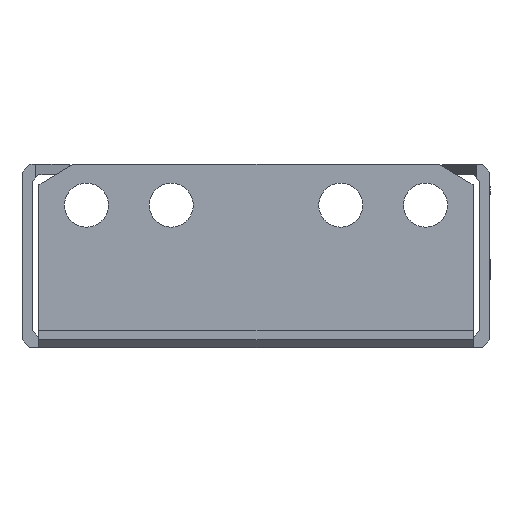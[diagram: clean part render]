
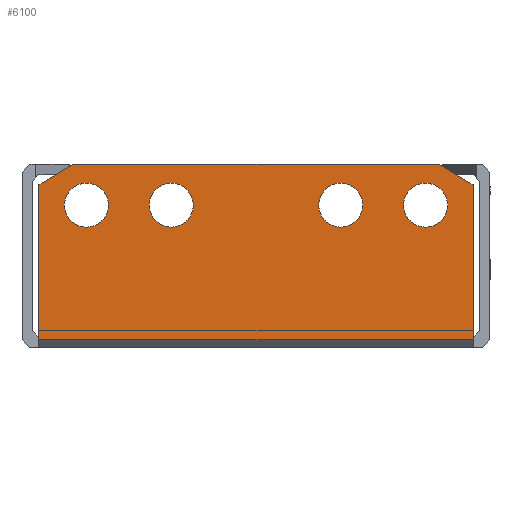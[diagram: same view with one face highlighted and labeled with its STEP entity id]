
A CAD part, left-side view. The second image highlights one B-rep face of the part: STEP entity #6100.
In plain terms, the highlighted planar face has unit normal (-1, 0, 0).
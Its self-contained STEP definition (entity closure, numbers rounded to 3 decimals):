
#338 = ORIENTED_EDGE ( 'NONE', *, *, #28881, .F. ) ;
#388 = DIRECTION ( 'NONE',  ( 0., 0., 1. ) ) ;
#456 = DIRECTION ( 'NONE',  ( 0., 0., 1. ) ) ;
#588 = ORIENTED_EDGE ( 'NONE', *, *, #29663, .F. ) ;
#1212 = CARTESIAN_POINT ( 'NONE',  ( -253., 25., 22.75 ) ) ;
#1337 = ORIENTED_EDGE ( 'NONE', *, *, #15511, .T. ) ;
#1349 = CARTESIAN_POINT ( 'NONE',  ( -253., -32., 22.5 ) ) ;
#1446 = VECTOR ( 'NONE', #16969, 1000. ) ;
#1674 = EDGE_CURVE ( 'NONE', #15172, #7229, #16287, .T. ) ;
#2029 = ORIENTED_EDGE ( 'NONE', *, *, #30633, .F. ) ;
#2379 = DIRECTION ( 'NONE',  ( 0., 0.857, -0.514 ) ) ;
#2941 = CARTESIAN_POINT ( 'NONE',  ( -253., -35.536, -0.369 ) ) ;
#2956 = CARTESIAN_POINT ( 'NONE',  ( -253., -27., 25.5 ) ) ;
#2959 = DIRECTION ( 'NONE',  ( 0., 0., 1. ) ) ;
#4127 = EDGE_CURVE ( 'NONE', #17884, #10738, #9793, .T. ) ;
#5279 = VERTEX_POINT ( 'NONE', #12910 ) ;
#5345 = AXIS2_PLACEMENT_3D ( 'NONE', #12559, #27231, #456 ) ;
#5361 = CARTESIAN_POINT ( 'NONE',  ( -253., 0., 0. ) ) ;
#5756 = DIRECTION ( 'NONE',  ( -1., 0., 0. ) ) ;
#6100 = ADVANCED_FACE ( 'NONE', ( #30208, #18089, #19836, #17453, #12521 ), #17621, .T. ) ;
#6272 = AXIS2_PLACEMENT_3D ( 'NONE', #22699, #12494, #388 ) ;
#6328 = DIRECTION ( 'NONE',  ( 0., 0., 1. ) ) ;
#6773 = VECTOR ( 'NONE', #17444, 1000. ) ;
#6870 = CIRCLE ( 'NONE', #5345, 3.25 ) ;
#6899 = EDGE_CURVE ( 'NONE', #5279, #26108, #6870, .T. ) ;
#7229 = VERTEX_POINT ( 'NONE', #7277 ) ;
#7277 = CARTESIAN_POINT ( 'NONE',  ( -253., -12.5, 16.25 ) ) ;
#7534 = AXIS2_PLACEMENT_3D ( 'NONE', #17456, #15388, #2959 ) ;
#7724 = CARTESIAN_POINT ( 'NONE',  ( -253., 12.5, 22.75 ) ) ;
#7789 = DIRECTION ( 'NONE',  ( -1., 0., 0. ) ) ;
#7979 = CARTESIAN_POINT ( 'NONE',  ( -253., -32., -0.369 ) ) ;
#8362 = EDGE_CURVE ( 'NONE', #21082, #22883, #9824, .T. ) ;
#9605 = ORIENTED_EDGE ( 'NONE', *, *, #23632, .T. ) ;
#9793 = LINE ( 'NONE', #2941, #1446 ) ;
#9824 = LINE ( 'NONE', #17299, #13315 ) ;
#10064 = CARTESIAN_POINT ( 'NONE',  ( -253., -12.5, 19.5 ) ) ;
#10163 = CARTESIAN_POINT ( 'NONE',  ( -253., 32., -0.369 ) ) ;
#10168 = CARTESIAN_POINT ( 'NONE',  ( -253., 25., 19.5 ) ) ;
#10458 = DIRECTION ( 'NONE',  ( -1., 0., 0. ) ) ;
#10738 = VERTEX_POINT ( 'NONE', #10163 ) ;
#10758 = CARTESIAN_POINT ( 'NONE',  ( -253., 25., 16.25 ) ) ;
#10784 = CARTESIAN_POINT ( 'NONE',  ( -253., -12.5, 19.5 ) ) ;
#10833 = AXIS2_PLACEMENT_3D ( 'NONE', #20565, #5756, #15772 ) ;
#11582 = ORIENTED_EDGE ( 'NONE', *, *, #13949, .F. ) ;
#11854 = ORIENTED_EDGE ( 'NONE', *, *, #8362, .T. ) ;
#11990 = VERTEX_POINT ( 'NONE', #29141 ) ;
#12034 = VECTOR ( 'NONE', #28768, 1000. ) ;
#12490 = VERTEX_POINT ( 'NONE', #29742 ) ;
#12494 = DIRECTION ( 'NONE',  ( -1., 0., 0. ) ) ;
#12521 = FACE_OUTER_BOUND ( 'NONE', #23448, .T. ) ;
#12559 = CARTESIAN_POINT ( 'NONE',  ( -253., -25., 19.5 ) ) ;
#12603 = CIRCLE ( 'NONE', #7534, 3.25 ) ;
#12679 = DIRECTION ( 'NONE',  ( 0., 0.857, 0.514 ) ) ;
#12856 = DIRECTION ( 'NONE',  ( 0., 0., 1. ) ) ;
#12910 = CARTESIAN_POINT ( 'NONE',  ( -253., -25., 16.25 ) ) ;
#12920 = ORIENTED_EDGE ( 'NONE', *, *, #4127, .F. ) ;
#13315 = VECTOR ( 'NONE', #12679, 1000. ) ;
#13356 = EDGE_LOOP ( 'NONE', ( #14612, #338 ) ) ;
#13395 = AXIS2_PLACEMENT_3D ( 'NONE', #16333, #13637, #6328 ) ;
#13637 = DIRECTION ( 'NONE',  ( -1., 0., 0. ) ) ;
#13949 = EDGE_CURVE ( 'NONE', #7229, #15172, #27107, .T. ) ;
#14434 = LINE ( 'NONE', #24170, #6773 ) ;
#14467 = EDGE_CURVE ( 'NONE', #22883, #11990, #18651, .T. ) ;
#14612 = ORIENTED_EDGE ( 'NONE', *, *, #20343, .F. ) ;
#14915 = AXIS2_PLACEMENT_3D ( 'NONE', #10784, #24823, #12856 ) ;
#15118 = LINE ( 'NONE', #24225, #25189 ) ;
#15172 = VERTEX_POINT ( 'NONE', #25306 ) ;
#15300 = CARTESIAN_POINT ( 'NONE',  ( -253., 12.5, 16.25 ) ) ;
#15387 = DIRECTION ( 'NONE',  ( 0., 0., 1. ) ) ;
#15388 = DIRECTION ( 'NONE',  ( -1., 0., 0. ) ) ;
#15510 = VERTEX_POINT ( 'NONE', #7724 ) ;
#15511 = EDGE_CURVE ( 'NONE', #17884, #21082, #14434, .T. ) ;
#15772 = DIRECTION ( 'NONE',  ( 0., 0., 1. ) ) ;
#16287 = CIRCLE ( 'NONE', #25979, 3.25 ) ;
#16333 = CARTESIAN_POINT ( 'NONE',  ( -253., -25., 19.5 ) ) ;
#16582 = CARTESIAN_POINT ( 'NONE',  ( -253., 27., 25.5 ) ) ;
#16799 = ORIENTED_EDGE ( 'NONE', *, *, #14467, .T. ) ;
#16885 = DIRECTION ( 'NONE',  ( 0., 1., 0. ) ) ;
#16969 = DIRECTION ( 'NONE',  ( 0., 1., 0. ) ) ;
#17084 = DIRECTION ( 'NONE',  ( -1., 0., 0. ) ) ;
#17120 = EDGE_CURVE ( 'NONE', #26108, #5279, #26123, .T. ) ;
#17299 = CARTESIAN_POINT ( 'NONE',  ( -253., -32., 22.5 ) ) ;
#17340 = EDGE_LOOP ( 'NONE', ( #29599, #20302 ) ) ;
#17444 = DIRECTION ( 'NONE',  ( 0., 0., 1. ) ) ;
#17453 = FACE_BOUND ( 'NONE', #13356, .T. ) ;
#17456 = CARTESIAN_POINT ( 'NONE',  ( -253., 12.5, 19.5 ) ) ;
#17505 = DIRECTION ( 'NONE',  ( 0., 0., 1. ) ) ;
#17621 = PLANE ( 'NONE',  #23603 ) ;
#17884 = VERTEX_POINT ( 'NONE', #7979 ) ;
#18089 = FACE_BOUND ( 'NONE', #20906, .T. ) ;
#18362 = ORIENTED_EDGE ( 'NONE', *, *, #1674, .F. ) ;
#18582 = ORIENTED_EDGE ( 'NONE', *, *, #24782, .T. ) ;
#18651 = LINE ( 'NONE', #16582, #30210 ) ;
#18759 = AXIS2_PLACEMENT_3D ( 'NONE', #10168, #7789, #17505 ) ;
#19672 = CARTESIAN_POINT ( 'NONE',  ( -253., -25., 22.75 ) ) ;
#19836 = FACE_BOUND ( 'NONE', #17340, .T. ) ;
#20302 = ORIENTED_EDGE ( 'NONE', *, *, #17120, .F. ) ;
#20343 = EDGE_CURVE ( 'NONE', #28392, #15510, #31181, .T. ) ;
#20565 = CARTESIAN_POINT ( 'NONE',  ( -253., 12.5, 19.5 ) ) ;
#20906 = EDGE_LOOP ( 'NONE', ( #11582, #18362 ) ) ;
#21082 = VERTEX_POINT ( 'NONE', #1349 ) ;
#21596 = CARTESIAN_POINT ( 'NONE',  ( -253., 32., 0. ) ) ;
#21820 = CIRCLE ( 'NONE', #18759, 3.25 ) ;
#22699 = CARTESIAN_POINT ( 'NONE',  ( -253., 25., 19.5 ) ) ;
#22861 = VERTEX_POINT ( 'NONE', #10758 ) ;
#22883 = VERTEX_POINT ( 'NONE', #2956 ) ;
#23448 = EDGE_LOOP ( 'NONE', ( #18582, #12920, #1337, #11854, #16799, #9605 ) ) ;
#23603 = AXIS2_PLACEMENT_3D ( 'NONE', #5361, #10458, #15387 ) ;
#23632 = EDGE_CURVE ( 'NONE', #11990, #12490, #15118, .T. ) ;
#24170 = CARTESIAN_POINT ( 'NONE',  ( -253., -32., 22.5 ) ) ;
#24225 = CARTESIAN_POINT ( 'NONE',  ( -253., 32., 22.5 ) ) ;
#24782 = EDGE_CURVE ( 'NONE', #12490, #10738, #31319, .T. ) ;
#24823 = DIRECTION ( 'NONE',  ( -1., 0., 0. ) ) ;
#25189 = VECTOR ( 'NONE', #2379, 1000. ) ;
#25306 = CARTESIAN_POINT ( 'NONE',  ( -253., -12.5, 22.75 ) ) ;
#25979 = AXIS2_PLACEMENT_3D ( 'NONE', #10064, #17084, #29346 ) ;
#26108 = VERTEX_POINT ( 'NONE', #19672 ) ;
#26123 = CIRCLE ( 'NONE', #13395, 3.25 ) ;
#27107 = CIRCLE ( 'NONE', #14915, 3.25 ) ;
#27231 = DIRECTION ( 'NONE',  ( -1., 0., 0. ) ) ;
#28392 = VERTEX_POINT ( 'NONE', #15300 ) ;
#28768 = DIRECTION ( 'NONE',  ( 0., 0., -1. ) ) ;
#28881 = EDGE_CURVE ( 'NONE', #15510, #28392, #12603, .T. ) ;
#29141 = CARTESIAN_POINT ( 'NONE',  ( -253., 27., 25.5 ) ) ;
#29333 = EDGE_LOOP ( 'NONE', ( #588, #2029 ) ) ;
#29346 = DIRECTION ( 'NONE',  ( 0., 0., 1. ) ) ;
#29599 = ORIENTED_EDGE ( 'NONE', *, *, #6899, .F. ) ;
#29663 = EDGE_CURVE ( 'NONE', #22861, #30308, #21820, .T. ) ;
#29667 = CIRCLE ( 'NONE', #6272, 3.25 ) ;
#29742 = CARTESIAN_POINT ( 'NONE',  ( -253., 32., 22.5 ) ) ;
#30208 = FACE_BOUND ( 'NONE', #29333, .T. ) ;
#30210 = VECTOR ( 'NONE', #16885, 1000. ) ;
#30308 = VERTEX_POINT ( 'NONE', #1212 ) ;
#30633 = EDGE_CURVE ( 'NONE', #30308, #22861, #29667, .T. ) ;
#31181 = CIRCLE ( 'NONE', #10833, 3.25 ) ;
#31319 = LINE ( 'NONE', #21596, #12034 ) ;
